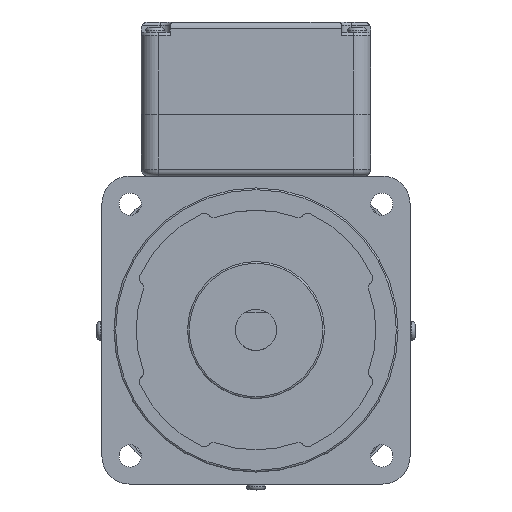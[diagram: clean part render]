
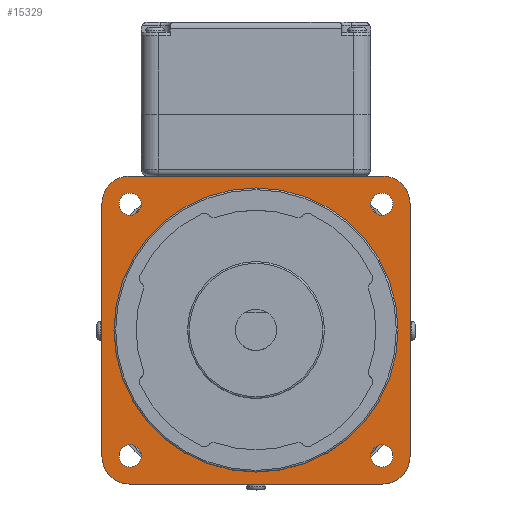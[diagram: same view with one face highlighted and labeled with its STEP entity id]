
A CAD part, top view. The second image highlights one B-rep face of the part: STEP entity #15329.
In plain terms, the highlighted planar face has unit normal (0, 0, 1).
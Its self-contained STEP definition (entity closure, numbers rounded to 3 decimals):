
#13143=CARTESIAN_POINT('',(37.,45.0,155.));
#13144=VERTEX_POINT('',#13143);
#13151=CARTESIAN_POINT('',(45.0,37.0,155.));
#13152=VERTEX_POINT('',#13151);
#13153=CARTESIAN_POINT('',(37.0,37.0,155.));
#13154=DIRECTION('',(0.0,0.0,-1.0));
#13155=DIRECTION('',(-1.0,0.0,0.0));
#13156=AXIS2_PLACEMENT_3D('',#13153,#13154,#13155);
#13157=CIRCLE('',#13156,8.);
#13158=EDGE_CURVE('',#13144,#13152,#13157,.T.);
#13250=CARTESIAN_POINT('',(40.02,36.77,155.));
#13251=VERTEX_POINT('',#13250);
#13252=CARTESIAN_POINT('',(36.77,36.77,155.));
#13253=DIRECTION('',(0.0,0.0,-1.0));
#13254=DIRECTION('',(-1.0,0.0,0.0));
#13255=AXIS2_PLACEMENT_3D('',#13252,#13253,#13254);
#13256=CIRCLE('',#13255,3.25);
#13257=EDGE_CURVE('',#13251,#13251,#13256,.T.);
#13278=CARTESIAN_POINT('',(45.0,-37.,155.));
#13279=VERTEX_POINT('',#13278);
#13286=CARTESIAN_POINT('',(37.0,-45.0,155.));
#13287=VERTEX_POINT('',#13286);
#13288=CARTESIAN_POINT('',(37.0,-37.0,155.));
#13289=DIRECTION('',(0.0,0.0,-1.0));
#13290=DIRECTION('',(0.0,1.0,0.0));
#13291=AXIS2_PLACEMENT_3D('',#13288,#13289,#13290);
#13292=CIRCLE('',#13291,8.);
#13293=EDGE_CURVE('',#13279,#13287,#13292,.T.);
#13309=CARTESIAN_POINT('',(45.0,37.0,155.));
#13310=DIRECTION('',(0.0,-1.0,0.0));
#13311=VECTOR('',#13310,74.0);
#13312=LINE('',#13309,#13311);
#13313=EDGE_CURVE('',#13152,#13279,#13312,.T.);
#13342=CARTESIAN_POINT('',(40.02,-36.77,155.));
#13343=VERTEX_POINT('',#13342);
#13344=CARTESIAN_POINT('',(36.77,-36.77,155.));
#13345=DIRECTION('',(0.0,0.0,-1.0));
#13346=DIRECTION('',(-1.0,0.0,0.0));
#13347=AXIS2_PLACEMENT_3D('',#13344,#13345,#13346);
#13348=CIRCLE('',#13347,3.25);
#13349=EDGE_CURVE('',#13343,#13343,#13348,.T.);
#13370=CARTESIAN_POINT('',(-37.,-45.0,155.));
#13371=VERTEX_POINT('',#13370);
#13378=CARTESIAN_POINT('',(-45.0,-37.0,155.));
#13379=VERTEX_POINT('',#13378);
#13380=CARTESIAN_POINT('',(-37.0,-37.0,155.));
#13381=DIRECTION('',(0.0,0.0,-1.0));
#13382=DIRECTION('',(1.0,0.0,0.0));
#13383=AXIS2_PLACEMENT_3D('',#13380,#13381,#13382);
#13384=CIRCLE('',#13383,8.);
#13385=EDGE_CURVE('',#13371,#13379,#13384,.T.);
#13401=CARTESIAN_POINT('',(37.0,-45.0,155.));
#13402=DIRECTION('',(-1.0,0.0,0.0));
#13403=VECTOR('',#13402,74.0);
#13404=LINE('',#13401,#13403);
#13405=EDGE_CURVE('',#13287,#13371,#13404,.T.);
#13434=CARTESIAN_POINT('',(-33.52,-36.77,155.));
#13435=VERTEX_POINT('',#13434);
#13436=CARTESIAN_POINT('',(-36.77,-36.77,155.));
#13437=DIRECTION('',(0.0,0.0,-1.0));
#13438=DIRECTION('',(-1.0,0.0,0.0));
#13439=AXIS2_PLACEMENT_3D('',#13436,#13437,#13438);
#13440=CIRCLE('',#13439,3.25);
#13441=EDGE_CURVE('',#13435,#13435,#13440,.T.);
#13509=CARTESIAN_POINT('',(-37.0,45.0,155.));
#13510=VERTEX_POINT('',#13509);
#13517=CARTESIAN_POINT('',(-37.0,45.0,155.));
#13518=DIRECTION('',(1.0,0.0,0.0));
#13519=VECTOR('',#13518,74.0);
#13520=LINE('',#13517,#13519);
#13521=EDGE_CURVE('',#13510,#13144,#13520,.T.);
#13587=CARTESIAN_POINT('',(-45.0,37.,155.));
#13588=VERTEX_POINT('',#13587);
#13595=CARTESIAN_POINT('',(-37.0,37.0,155.));
#13596=DIRECTION('',(0.0,0.0,-1.0));
#13597=DIRECTION('',(0.0,-1.0,0.0));
#13598=AXIS2_PLACEMENT_3D('',#13595,#13596,#13597);
#13599=CIRCLE('',#13598,8.);
#13600=EDGE_CURVE('',#13588,#13510,#13599,.T.);
#13611=CARTESIAN_POINT('',(-45.0,-37.0,155.));
#13612=DIRECTION('',(0.0,1.0,0.0));
#13613=VECTOR('',#13612,74.0);
#13614=LINE('',#13611,#13613);
#13615=EDGE_CURVE('',#13379,#13588,#13614,.T.);
#13951=CARTESIAN_POINT('',(-33.52,36.77,155.));
#13952=VERTEX_POINT('',#13951);
#13953=CARTESIAN_POINT('',(-36.77,36.77,155.));
#13954=DIRECTION('',(0.0,0.0,-1.0));
#13955=DIRECTION('',(-1.0,0.0,0.0));
#13956=AXIS2_PLACEMENT_3D('',#13953,#13954,#13955);
#13957=CIRCLE('',#13956,3.25);
#13958=EDGE_CURVE('',#13952,#13952,#13957,.T.);
#15284=CARTESIAN_POINT('',(41.5,0.,155.));
#15285=VERTEX_POINT('',#15284);
#15286=CARTESIAN_POINT('',(0.,0.,155.));
#15287=DIRECTION('',(0.0,0.0,-1.0));
#15288=DIRECTION('',(-1.0,0.0,0.0));
#15289=AXIS2_PLACEMENT_3D('',#15286,#15287,#15288);
#15290=CIRCLE('',#15289,41.5);
#15291=EDGE_CURVE('',#15285,#15285,#15290,.T.);
#15299=CARTESIAN_POINT('',(0.,0.,155.));
#15300=DIRECTION('',(0.0,0.0,-1.0));
#15301=DIRECTION('',(-1.0,0.0,0.0));
#15302=AXIS2_PLACEMENT_3D('',#15299,#15300,#15301);
#15303=PLANE('',#15302);
#15304=ORIENTED_EDGE('',*,*,#13313,.F.);
#15305=ORIENTED_EDGE('',*,*,#13158,.F.);
#15306=ORIENTED_EDGE('',*,*,#13521,.F.);
#15307=ORIENTED_EDGE('',*,*,#13600,.F.);
#15308=ORIENTED_EDGE('',*,*,#13615,.F.);
#15309=ORIENTED_EDGE('',*,*,#13385,.F.);
#15310=ORIENTED_EDGE('',*,*,#13405,.F.);
#15311=ORIENTED_EDGE('',*,*,#13293,.F.);
#15312=EDGE_LOOP('',(#15304,#15305,#15306,#15307,#15308,#15309,#15310,#15311));
#15313=FACE_OUTER_BOUND('',#15312,.T.);
#15314=ORIENTED_EDGE('',*,*,#15291,.T.);
#15315=EDGE_LOOP('',(#15314));
#15316=FACE_BOUND('',#15315,.T.);
#15317=ORIENTED_EDGE('',*,*,#13958,.T.);
#15318=EDGE_LOOP('',(#15317));
#15319=FACE_BOUND('',#15318,.T.);
#15320=ORIENTED_EDGE('',*,*,#13441,.T.);
#15321=EDGE_LOOP('',(#15320));
#15322=FACE_BOUND('',#15321,.T.);
#15323=ORIENTED_EDGE('',*,*,#13349,.T.);
#15324=EDGE_LOOP('',(#15323));
#15325=FACE_BOUND('',#15324,.T.);
#15326=ORIENTED_EDGE('',*,*,#13257,.T.);
#15327=EDGE_LOOP('',(#15326));
#15328=FACE_BOUND('',#15327,.T.);
#15329=ADVANCED_FACE('',(#15313,#15316,#15319,#15322,#15325,#15328),#15303,.F.);
